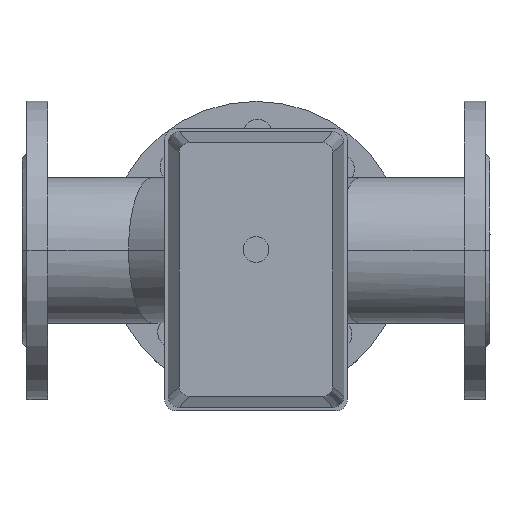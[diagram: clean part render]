
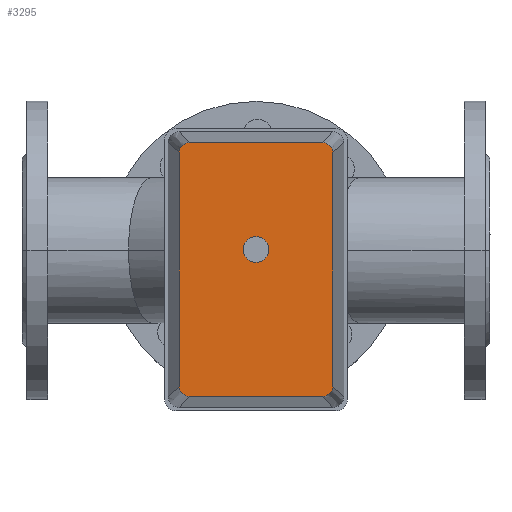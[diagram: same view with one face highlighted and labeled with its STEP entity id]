
A CAD part, top view. The second image highlights one B-rep face of the part: STEP entity #3295.
In plain terms, the highlighted planar face has unit normal (0, 0, 1).
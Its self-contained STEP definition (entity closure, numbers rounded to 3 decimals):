
#279=LINE('',#5590,#472);
#280=LINE('',#5594,#473);
#281=LINE('',#5598,#474);
#282=LINE('',#5602,#475);
#472=VECTOR('',#4576,304.8);
#473=VECTOR('',#4579,304.8);
#474=VECTOR('',#4582,304.8);
#475=VECTOR('',#4585,304.8);
#824=FACE_OUTER_BOUND('',#1055,.T.);
#1055=EDGE_LOOP('',(#2637,#2638,#2639,#2640,#2641,#2642,#2643,#2644));
#1282=CIRCLE('',#3684,6.);
#1283=CIRCLE('',#3685,6.);
#1284=CIRCLE('',#3686,6.);
#1285=CIRCLE('',#3687,6.);
#1544=VERTEX_POINT('',#5588);
#1545=VERTEX_POINT('',#5589);
#1546=VERTEX_POINT('',#5591);
#1547=VERTEX_POINT('',#5593);
#1548=VERTEX_POINT('',#5595);
#1549=VERTEX_POINT('',#5597);
#1550=VERTEX_POINT('',#5599);
#1551=VERTEX_POINT('',#5601);
#1923=EDGE_CURVE('',#1544,#1545,#279,.T.);
#1924=EDGE_CURVE('',#1545,#1546,#1282,.T.);
#1925=EDGE_CURVE('',#1546,#1547,#280,.T.);
#1926=EDGE_CURVE('',#1547,#1548,#1283,.T.);
#1927=EDGE_CURVE('',#1548,#1549,#281,.T.);
#1928=EDGE_CURVE('',#1549,#1550,#1284,.T.);
#1929=EDGE_CURVE('',#1550,#1551,#282,.T.);
#1930=EDGE_CURVE('',#1551,#1544,#1285,.T.);
#2637=ORIENTED_EDGE('',*,*,#1923,.T.);
#2638=ORIENTED_EDGE('',*,*,#1924,.T.);
#2639=ORIENTED_EDGE('',*,*,#1925,.T.);
#2640=ORIENTED_EDGE('',*,*,#1926,.T.);
#2641=ORIENTED_EDGE('',*,*,#1927,.T.);
#2642=ORIENTED_EDGE('',*,*,#1928,.T.);
#2643=ORIENTED_EDGE('',*,*,#1929,.T.);
#2644=ORIENTED_EDGE('',*,*,#1930,.T.);
#2945=PLANE('',#3683);
#3295=ADVANCED_FACE('',(#824),#2945,.T.);
#3683=AXIS2_PLACEMENT_3D('',#5587,#4574,#4575);
#3684=AXIS2_PLACEMENT_3D('',#5592,#4577,#4578);
#3685=AXIS2_PLACEMENT_3D('',#5596,#4580,#4581);
#3686=AXIS2_PLACEMENT_3D('',#5600,#4583,#4584);
#3687=AXIS2_PLACEMENT_3D('',#5603,#4586,#4587);
#4574=DIRECTION('center_axis',(0.,0.,1.));
#4575=DIRECTION('ref_axis',(0.,-1.,0.));
#4576=DIRECTION('',(0.,-1.,0.));
#4577=DIRECTION('center_axis',(0.,0.,1.));
#4578=DIRECTION('ref_axis',(1.,0.,0.));
#4579=DIRECTION('',(1.,0.,0.));
#4580=DIRECTION('center_axis',(0.,0.,1.));
#4581=DIRECTION('ref_axis',(1.,0.,0.));
#4582=DIRECTION('',(0.,1.,0.));
#4583=DIRECTION('center_axis',(0.,0.,1.));
#4584=DIRECTION('ref_axis',(1.,0.,0.));
#4585=DIRECTION('',(-1.,0.,0.));
#4586=DIRECTION('center_axis',(0.,0.,1.));
#4587=DIRECTION('ref_axis',(1.,0.,0.));
#5587=CARTESIAN_POINT('Origin',(-12.5,0.002,249.));
#5588=CARTESIAN_POINT('',(-91.,41.502,249.));
#5589=CARTESIAN_POINT('',(-91.,-41.498,249.));
#5590=CARTESIAN_POINT('',(-91.,-41.498,249.));
#5591=CARTESIAN_POINT('',(-85.,-47.498,249.));
#5592=CARTESIAN_POINT('Origin',(-85.,-41.498,249.));
#5593=CARTESIAN_POINT('',(60.,-47.498,249.));
#5594=CARTESIAN_POINT('',(60.,-47.498,249.));
#5595=CARTESIAN_POINT('',(66.,-41.498,249.));
#5596=CARTESIAN_POINT('Origin',(60.,-41.498,249.));
#5597=CARTESIAN_POINT('',(66.,41.502,249.));
#5598=CARTESIAN_POINT('',(66.,41.502,249.));
#5599=CARTESIAN_POINT('',(60.,47.502,249.));
#5600=CARTESIAN_POINT('Origin',(60.,41.502,249.));
#5601=CARTESIAN_POINT('',(-85.,47.502,249.));
#5602=CARTESIAN_POINT('',(-85.,47.502,249.));
#5603=CARTESIAN_POINT('Origin',(-85.,41.502,249.));
